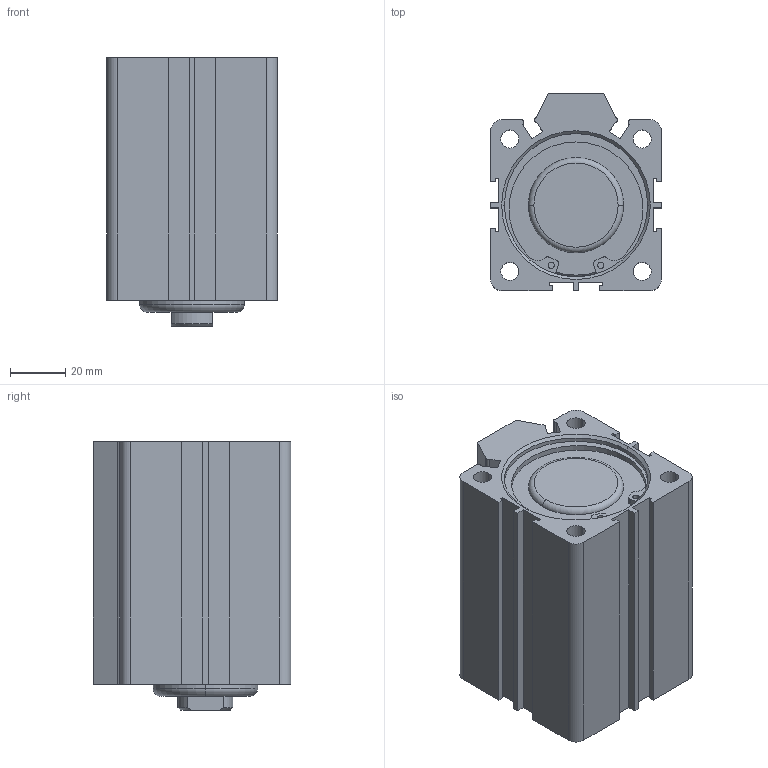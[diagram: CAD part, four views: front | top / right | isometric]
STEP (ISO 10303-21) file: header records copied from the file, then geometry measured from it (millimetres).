
FILE_DESCRIPTION (( 'STEP AP214' ), '1' );
FILE_NAME ('SDA_N_50_50_WEB.STEP', '2020-08-25T15:02:14', ( '' ), ( '' ), 'SwSTEP 2.0', 'SolidWorks 2018', '' );
FILE_SCHEMA (( 'AUTOMOTIVE_DESIGN' ));
Length unit declared in the file: millimetre
Products named in the file (6): SDA_N_50_ARKAKAPAK; SDA_N_50_MIL_WEB; SDA 50_BORU_WEB; SDA_N_50_50_WEB; SDA_N_50_BOGAZ_BURCU_VER_2; basic internal retaining ring_am_B27.7M - 3BM1-52
Assembly tree (6 placements, depth 2):
  SDA_N_50_50_WEB
    SDA 50_BORU_WEB
    SDA_N_50_ARKAKAPAK
    SDA_N_50_MIL_WEB
    SDA_N_50_BOGAZ_BURCU_VER_2
    basic internal retaining ring_am_B27.7M - 3BM1-52  x2
Bounding box: 62 x 71.7 x 97.5 mm (x, y, z)
Volume: 190625.8 mm3; surface area: 76612.5 mm2
Topology: 6 solids, 6 shells, 400 faces, 1059 edges, 693 vertices
Faces by surface type: plane 175, cylinder 106, bspline 81, cone 34, torus 4
Entity records: 17515 total; most frequent: CARTESIAN_POINT 6556, ORIENTED_EDGE 1976, DIRECTION 1628, EDGE_CURVE 988, VERTEX_POINT 647, VECTOR 598, LINE 598, AXIS2_PLACEMENT_3D 515
